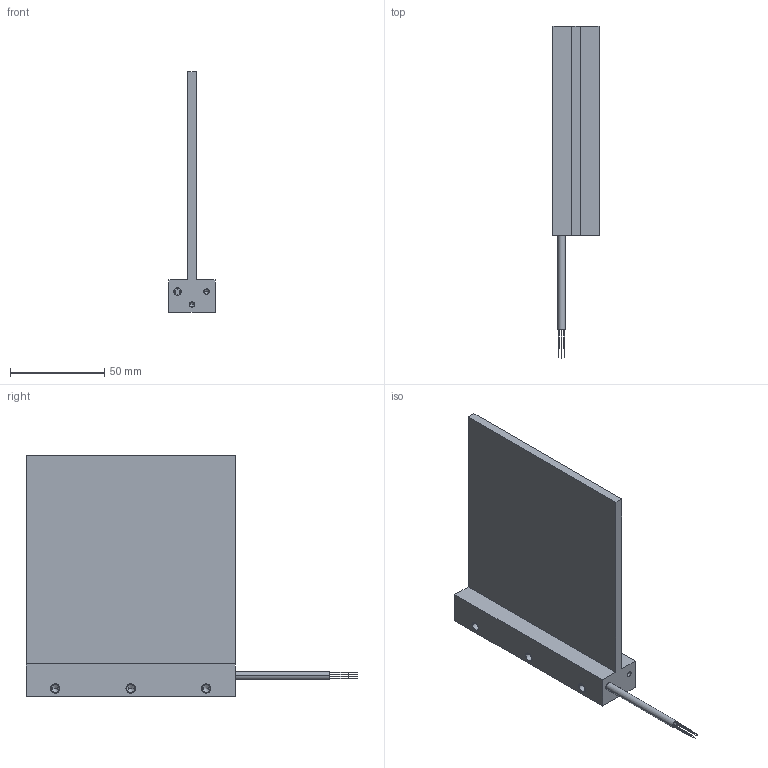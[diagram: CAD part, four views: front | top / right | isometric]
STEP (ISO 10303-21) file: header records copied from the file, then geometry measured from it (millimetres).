
FILE_DESCRIPTION((''),'2;1');
FILE_NAME('IL06-100','2006-04-05T',('saurabh.singhal'),('Kollmorgen'),'PRO/ENGINEER BY PARAMETRIC TECHNOLOGY CORPORATION, 2005310','PRO/ENGINEER BY PARAMETRIC TECHNOLOGY CORPORATION, 2005310','');
FILE_SCHEMA(('CONFIG_CONTROL_DESIGN'));
Length unit declared in the file: millimetre
Products named in the file (1): IL06-100
Bounding box: 24.4 x 175.8 x 127.3 mm (x, y, z)
Volume: 99557.3 mm3; surface area: 37902.1 mm2
Topology: 1 solids, 13 shells, 133 faces, 318 edges, 200 vertices
Faces by surface type: cylinder 74, plane 35, cone 24
Entity records: 3787 total; most frequent: DIRECTION 734, CARTESIAN_POINT 628, ORIENTED_EDGE 540, AXIS2_PLACEMENT_3D 306, EDGE_CURVE 294, VERTEX_POINT 200, CIRCLE 172, EDGE_LOOP 170
